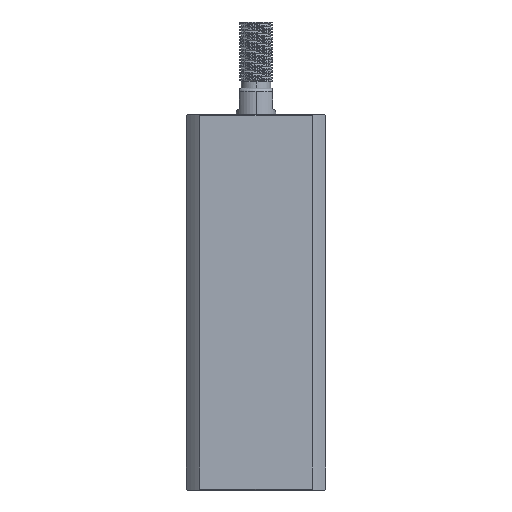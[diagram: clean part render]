
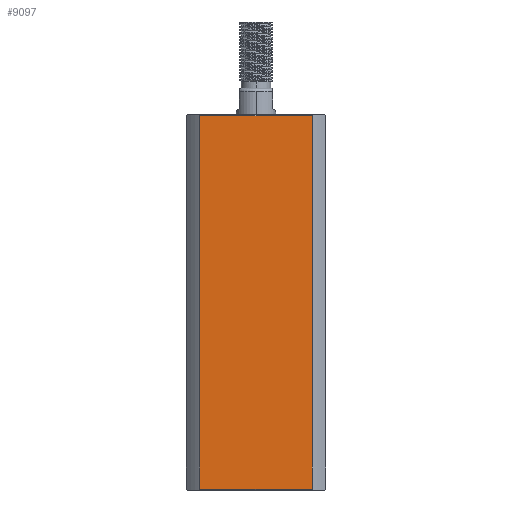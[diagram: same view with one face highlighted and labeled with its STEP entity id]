
A CAD part, left-side view. The second image highlights one B-rep face of the part: STEP entity #9097.
In plain terms, the highlighted planar face has unit normal (-1, 0, 0).
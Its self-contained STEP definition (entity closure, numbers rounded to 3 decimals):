
#574 = EDGE_CURVE ( 'NONE', #653, #10643, #11525, .T. ) ;
#653 = VERTEX_POINT ( 'NONE', #14510 ) ;
#956 = DIRECTION ( 'NONE',  ( 0., 1., 0. ) ) ;
#1155 = FACE_OUTER_BOUND ( 'NONE', #11568, .T. ) ;
#1759 = VECTOR ( 'NONE', #956, 1000. ) ;
#2250 = VECTOR ( 'NONE', #2683, 1000. ) ;
#2683 = DIRECTION ( 'NONE',  ( 0., -1., 0. ) ) ;
#3004 = ORIENTED_EDGE ( 'NONE', *, *, #4305, .F. ) ;
#3082 = CARTESIAN_POINT ( 'NONE',  ( -21., 21., 0.3 ) ) ;
#4282 = EDGE_CURVE ( 'NONE', #653, #12302, #4772, .T. ) ;
#4305 = EDGE_CURVE ( 'NONE', #14675, #10643, #7499, .T. ) ;
#4403 = VECTOR ( 'NONE', #6298, 1000. ) ;
#4772 = LINE ( 'NONE', #9764, #4403 ) ;
#5012 = PLANE ( 'NONE',  #7649 ) ;
#6127 = CARTESIAN_POINT ( 'NONE',  ( -21., 21., 113. ) ) ;
#6180 = DIRECTION ( 'NONE',  ( 1., 0., 0. ) ) ;
#6298 = DIRECTION ( 'NONE',  ( 0., 0., 1. ) ) ;
#6779 = CARTESIAN_POINT ( 'NONE',  ( -21., 21., 112.7 ) ) ;
#7471 = DIRECTION ( 'NONE',  ( 0., 0., -1. ) ) ;
#7499 = LINE ( 'NONE', #8648, #13304 ) ;
#7649 = AXIS2_PLACEMENT_3D ( 'NONE', #6127, #6180, #14309 ) ;
#7971 = LINE ( 'NONE', #6779, #1759 ) ;
#8189 = CARTESIAN_POINT ( 'NONE',  ( -21., 16.971, 112.7 ) ) ;
#8648 = CARTESIAN_POINT ( 'NONE',  ( -21., -16.971, -187. ) ) ;
#9097 = ADVANCED_FACE ( 'NONE', ( #1155 ), #5012, .F. ) ;
#9764 = CARTESIAN_POINT ( 'NONE',  ( -21., 16.971, -187. ) ) ;
#10625 = ORIENTED_EDGE ( 'NONE', *, *, #574, .T. ) ;
#10643 = VERTEX_POINT ( 'NONE', #13302 ) ;
#10912 = CARTESIAN_POINT ( 'NONE',  ( -21., -16.971, 112.7 ) ) ;
#11525 = LINE ( 'NONE', #3082, #2250 ) ;
#11568 = EDGE_LOOP ( 'NONE', ( #12287, #10625, #3004, #12663 ) ) ;
#12287 = ORIENTED_EDGE ( 'NONE', *, *, #4282, .F. ) ;
#12302 = VERTEX_POINT ( 'NONE', #8189 ) ;
#12663 = ORIENTED_EDGE ( 'NONE', *, *, #14146, .T. ) ;
#13302 = CARTESIAN_POINT ( 'NONE',  ( -21., -16.971, 0.3 ) ) ;
#13304 = VECTOR ( 'NONE', #7471, 1000. ) ;
#14146 = EDGE_CURVE ( 'NONE', #14675, #12302, #7971, .T. ) ;
#14309 = DIRECTION ( 'NONE',  ( 0., 1., 0. ) ) ;
#14510 = CARTESIAN_POINT ( 'NONE',  ( -21., 16.971, 0.3 ) ) ;
#14675 = VERTEX_POINT ( 'NONE', #10912 ) ;
